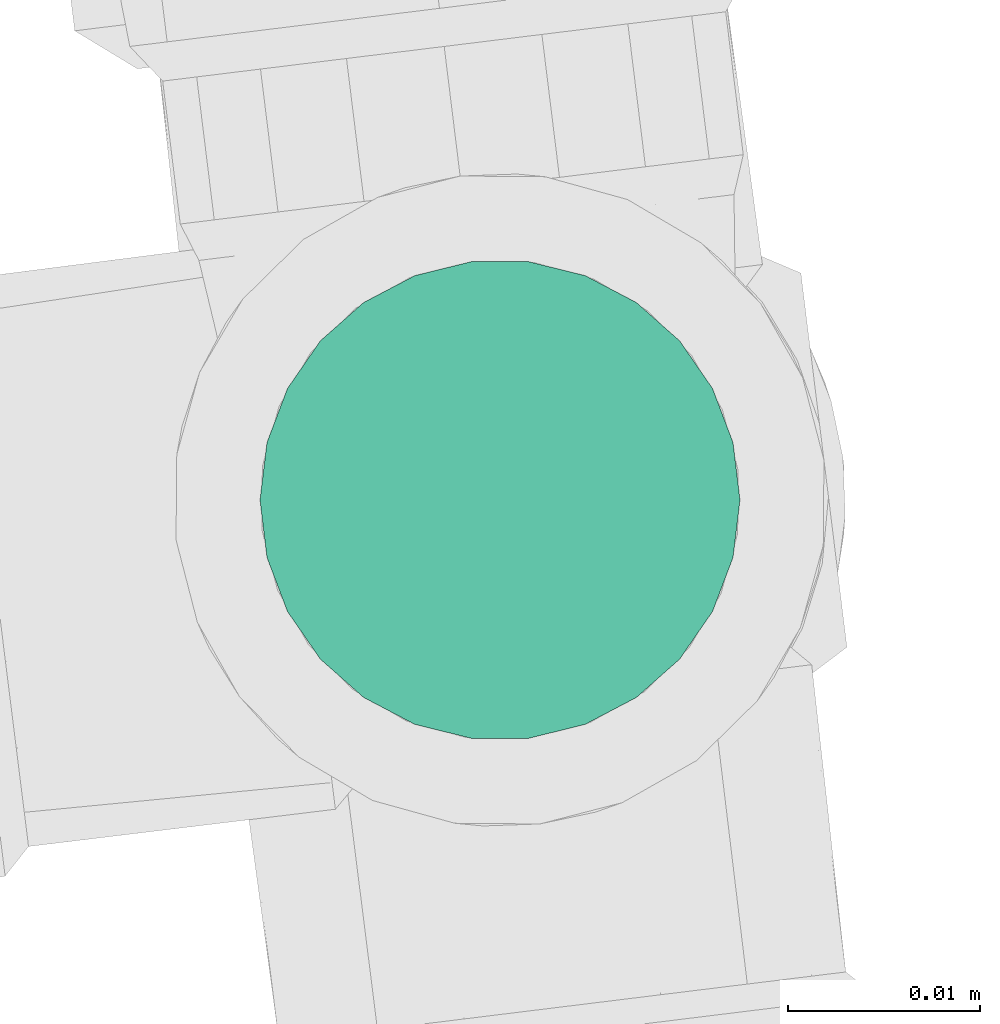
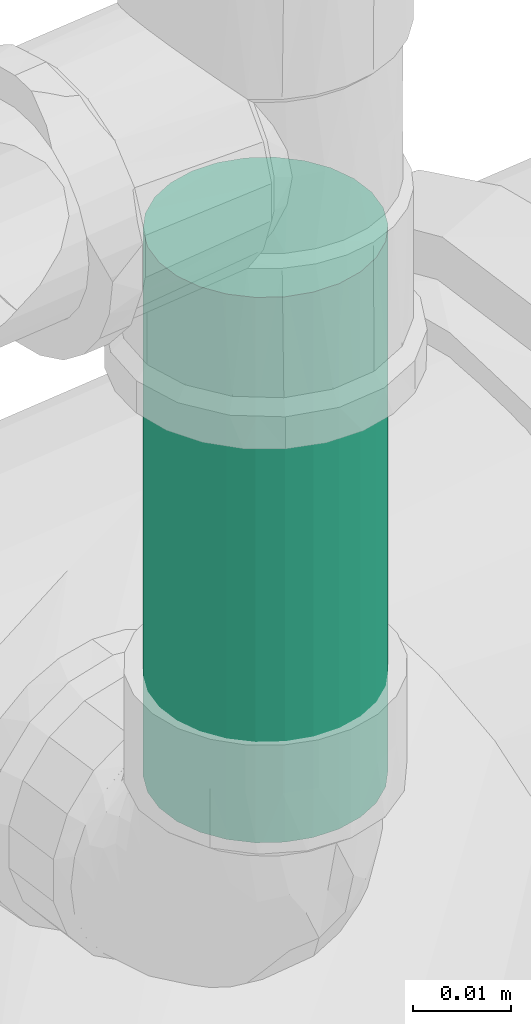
# One storey, part 74 of 97: 1 flow segment.
"""IFC2X3 building model written with IfcOpenShell, lengths in centimetres."""

from ifc_helpers import new_model, entity, si_unit, converted_unit, derived_unit, direction, frame, origin, origin_2d_with_axis, place, context, subcontext, project, spatial, circle, extrude, type_object, element, save


model = new_model("IFC2X3")

# Units and contexts
model_context = context("Model", 3, precision=0.001, world=origin(), true_north=direction((6.12303176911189e-17, 1.0)))
body_context = subcontext(model_context, "Body", "Model", "MODEL_VIEW")
ifc_project = project(units=[si_unit("LENGTHUNIT", "METRE", prefix="CENTI"), si_unit("AREAUNIT", "SQUARE_METRE"), si_unit("VOLUMEUNIT", "CUBIC_METRE"), converted_unit("PLANEANGLEUNIT", "DEGREE", entity("IfcRatioMeasure", 0.0174532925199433), si_unit("PLANEANGLEUNIT", "RADIAN"), dimensions=[0, 0, 0, 0, 0, 0, 0]), si_unit("MASSUNIT", "GRAM", prefix="KILO"), derived_unit("MASSDENSITYUNIT", [(si_unit("MASSUNIT", "GRAM", prefix="KILO"), 1), (si_unit("LENGTHUNIT", "METRE"), -3)]), derived_unit("MOMENTOFINERTIAUNIT", [(si_unit("LENGTHUNIT", "METRE"), 4)]), si_unit("TIMEUNIT", "SECOND"), si_unit("FREQUENCYUNIT", "HERTZ"), si_unit("THERMODYNAMICTEMPERATUREUNIT", "DEGREE_CELSIUS"), derived_unit("THERMALTRANSMITTANCEUNIT", [(si_unit("MASSUNIT", "GRAM", prefix="KILO"), 1), (si_unit("THERMODYNAMICTEMPERATUREUNIT", "KELVIN"), -1), (si_unit("TIMEUNIT", "SECOND"), -3)]), derived_unit("VOLUMETRICFLOWRATEUNIT", [(si_unit("LENGTHUNIT", "METRE"), 3), (si_unit("TIMEUNIT", "SECOND"), -1)]), si_unit("ELECTRICCURRENTUNIT", "AMPERE"), si_unit("ELECTRICVOLTAGEUNIT", "VOLT"), si_unit("POWERUNIT", "WATT"), si_unit("FORCEUNIT", "NEWTON", prefix="KILO"), si_unit("ILLUMINANCEUNIT", "LUX"), si_unit("LUMINOUSFLUXUNIT", "LUMEN"), si_unit("LUMINOUSINTENSITYUNIT", "CANDELA"), derived_unit("USERDEFINED", [(si_unit("MASSUNIT", "GRAM", prefix="KILO"), -1), (si_unit("LENGTHUNIT", "METRE"), -2), (si_unit("TIMEUNIT", "SECOND"), 3), (si_unit("LUMINOUSFLUXUNIT", "LUMEN"), 1)]), derived_unit("LINEARVELOCITYUNIT", [(si_unit("LENGTHUNIT", "METRE"), 1), (si_unit("TIMEUNIT", "SECOND"), -1)]), si_unit("PRESSUREUNIT", "PASCAL"), derived_unit("USERDEFINED", [(si_unit("LENGTHUNIT", "METRE"), -2), (si_unit("MASSUNIT", "GRAM", prefix="KILO"), 1), (si_unit("TIMEUNIT", "SECOND"), -2)]), derived_unit("LINEARFORCEUNIT", [(si_unit("MASSUNIT", "GRAM", prefix="KILO"), 1), (si_unit("LENGTHUNIT", "METRE"), 1), (si_unit("TIMEUNIT", "SECOND"), -2), (si_unit("LENGTHUNIT", "METRE"), -1)]), derived_unit("PLANARFORCEUNIT", [(si_unit("MASSUNIT", "GRAM", prefix="KILO"), 1), (si_unit("LENGTHUNIT", "METRE"), 1), (si_unit("TIMEUNIT", "SECOND"), -2), (si_unit("LENGTHUNIT", "METRE"), -2)])], contexts=[model_context])

# Site, building, storey
site_placement = place(None, origin())
site = spatial("IfcSite", under=ifc_project, at=site_placement, Name="Default", CompositionType="ELEMENT")
building_placement = place(site_placement, origin())
building = spatial("IfcBuilding", under=site, at=building_placement, Name="HIDROSSANITÁRIO", CompositionType="ELEMENT")
storey_placement = place(building_placement, frame((0.0, 0.0, -260.0)))
storey = spatial("IfcBuildingStorey", under=building, at=storey_placement, Name="TÉRREO-HID", CompositionType="ELEMENT", Elevation=-260.0)

# Flow segment
pipe_segment_type = type_object("IfcPipeSegmentType", Name="Tipos de tubos:Tubo Marrom - Água Fria - Soldável", PredefinedType="NOTDEFINED")
flow_segment_placement = place(storey_placement, origin())
element("IfcFlowSegment", 1, at=flow_segment_placement, inside=storey, type_object=pipe_segment_type, Name="Tipos de tubos:Tubo Marrom - Água Fria - Soldável", ObjectType="Tipos de tubos:Tubo Marrom - Água Fria - Soldável", context=body_context, shape_type="SweptSolid", body=[
    extrude(circle(Radius=1.25, at=origin_2d_with_axis()), frame((-1509.71550067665, 2919.59112945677, 21.63), z_axis=(0.0, 0.0, 1.0), x_axis=(-1.0, 0.0, 0.0)), (0.0, 0.0, 1.0), 6.78000000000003),
])

save(model, "model.ifc")
